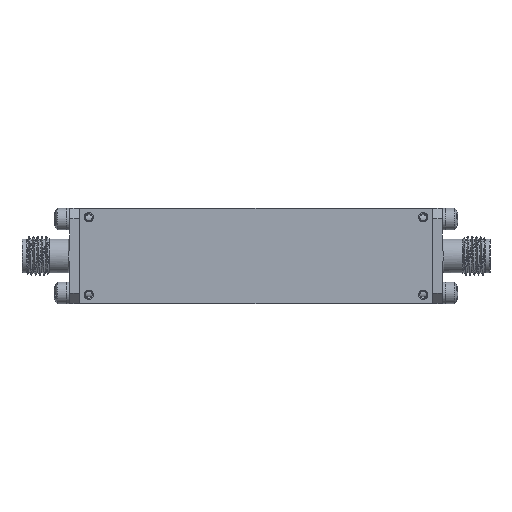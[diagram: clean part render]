
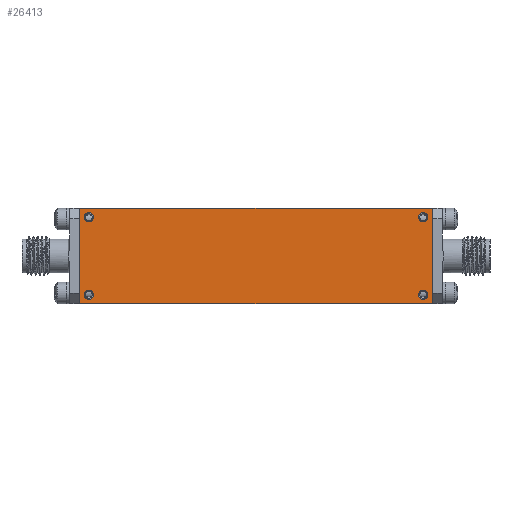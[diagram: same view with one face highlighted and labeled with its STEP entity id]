
A CAD part, front view. The second image highlights one B-rep face of the part: STEP entity #26413.
In plain terms, the highlighted planar face has unit normal (0, -1, 0).
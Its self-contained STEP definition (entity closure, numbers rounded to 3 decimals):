
#501 = DIRECTION ( 'NONE',  ( 0., 0., -1. ) ) ;
#599 = CARTESIAN_POINT ( 'NONE',  ( 949.946, 987.434, 1037.536 ) ) ;
#789 = EDGE_CURVE ( 'NONE', #24149, #24149, #38618, .T. ) ;
#790 = DIRECTION ( 'NONE',  ( 0., -1., 0. ) ) ;
#933 = EDGE_CURVE ( 'NONE', #24115, #23078, #27856, .T. ) ;
#956 = CARTESIAN_POINT ( 'NONE',  ( 1005.318, 987.434, 1036.774 ) ) ;
#1299 = CARTESIAN_POINT ( 'NONE',  ( 1006.842, 987.434, 1023.185 ) ) ;
#1666 = VECTOR ( 'NONE', #7726, 1000. ) ;
#2051 = EDGE_LOOP ( 'NONE', ( #6176, #29432, #21998, #5888 ) ) ;
#3520 = VERTEX_POINT ( 'NONE', #24592 ) ;
#3851 = VERTEX_POINT ( 'NONE', #1299 ) ;
#4286 = VECTOR ( 'NONE', #35685, 1000. ) ;
#5833 = CARTESIAN_POINT ( 'NONE',  ( 1005.318, 987.434, 1023.947 ) ) ;
#5888 = ORIENTED_EDGE ( 'NONE', *, *, #933, .F. ) ;
#6176 = ORIENTED_EDGE ( 'NONE', *, *, #14623, .F. ) ;
#7726 = DIRECTION ( 'NONE',  ( 0., 0., -1. ) ) ;
#7973 = FACE_BOUND ( 'NONE', #10949, .T. ) ;
#9040 = CARTESIAN_POINT ( 'NONE',  ( 948.422, 987.434, 1039.06 ) ) ;
#9574 = CARTESIAN_POINT ( 'NONE',  ( 1005.318, 987.434, 1024.709 ) ) ;
#9824 = VERTEX_POINT ( 'NONE', #25372 ) ;
#10153 = DIRECTION ( 'NONE',  ( 0., -1., 0. ) ) ;
#10919 = DIRECTION ( 'NONE',  ( 0., 0., 1. ) ) ;
#10949 = EDGE_LOOP ( 'NONE', ( #11199 ) ) ;
#11028 = DIRECTION ( 'NONE',  ( 0., -1., 0. ) ) ;
#11199 = ORIENTED_EDGE ( 'NONE', *, *, #31818, .F. ) ;
#12522 = CARTESIAN_POINT ( 'NONE',  ( 1005.318, 987.434, 1037.536 ) ) ;
#12582 = EDGE_CURVE ( 'NONE', #23078, #3851, #33886, .T. ) ;
#13014 = CARTESIAN_POINT ( 'NONE',  ( 1006.842, 987.434, 1039.06 ) ) ;
#13384 = VERTEX_POINT ( 'NONE', #34882 ) ;
#14623 = EDGE_CURVE ( 'NONE', #13384, #24115, #20932, .T. ) ;
#15973 = DIRECTION ( 'NONE',  ( 0., 0., -1. ) ) ;
#16736 = AXIS2_PLACEMENT_3D ( 'NONE', #31883, #11028, #28904 ) ;
#16869 = ORIENTED_EDGE ( 'NONE', *, *, #28085, .F. ) ;
#17143 = ORIENTED_EDGE ( 'NONE', *, *, #789, .F. ) ;
#17231 = DIRECTION ( 'NONE',  ( -1., 0., 0. ) ) ;
#18088 = EDGE_CURVE ( 'NONE', #3851, #13384, #20187, .T. ) ;
#18437 = EDGE_LOOP ( 'NONE', ( #16869 ) ) ;
#18611 = DIRECTION ( 'NONE',  ( 0., 0., -1. ) ) ;
#18998 = DIRECTION ( 'NONE',  ( 1., 0., 0. ) ) ;
#19140 = VECTOR ( 'NONE', #18998, 1000. ) ;
#19588 = CARTESIAN_POINT ( 'NONE',  ( 948.422, 987.434, 1039.06 ) ) ;
#19955 = DIRECTION ( 'NONE',  ( 0., 1., 0. ) ) ;
#20187 = LINE ( 'NONE', #34926, #33231 ) ;
#20932 = LINE ( 'NONE', #23731, #4286 ) ;
#21567 = DIRECTION ( 'NONE',  ( 0., -1., 0. ) ) ;
#21998 = ORIENTED_EDGE ( 'NONE', *, *, #12582, .F. ) ;
#22493 = CARTESIAN_POINT ( 'NONE',  ( 1006.842, 987.434, 1023.185 ) ) ;
#23078 = VERTEX_POINT ( 'NONE', #13014 ) ;
#23335 = FACE_BOUND ( 'NONE', #26036, .T. ) ;
#23731 = CARTESIAN_POINT ( 'NONE',  ( 948.422, 987.434, 1023.185 ) ) ;
#24115 = VERTEX_POINT ( 'NONE', #9040 ) ;
#24128 = ORIENTED_EDGE ( 'NONE', *, *, #36169, .F. ) ;
#24149 = VERTEX_POINT ( 'NONE', #5833 ) ;
#24202 = AXIS2_PLACEMENT_3D ( 'NONE', #9574, #21567, #18611 ) ;
#24592 = CARTESIAN_POINT ( 'NONE',  ( 949.946, 987.434, 1023.947 ) ) ;
#24786 = VERTEX_POINT ( 'NONE', #956 ) ;
#25239 = AXIS2_PLACEMENT_3D ( 'NONE', #599, #790, #15973 ) ;
#25372 = CARTESIAN_POINT ( 'NONE',  ( 949.946, 987.434, 1036.774 ) ) ;
#26036 = EDGE_LOOP ( 'NONE', ( #24128 ) ) ;
#26413 = ADVANCED_FACE ( 'NONE', ( #23335, #28992, #7973, #37659, #29197 ), #31966, .F. ) ;
#27709 = EDGE_LOOP ( 'NONE', ( #17143 ) ) ;
#27856 = LINE ( 'NONE', #19588, #19140 ) ;
#27903 = AXIS2_PLACEMENT_3D ( 'NONE', #28611, #19955, #10919 ) ;
#28085 = EDGE_CURVE ( 'NONE', #3520, #3520, #33079, .T. ) ;
#28155 = CIRCLE ( 'NONE', #33185, 0.762 ) ;
#28611 = CARTESIAN_POINT ( 'NONE',  ( 948.422, 987.434, 1039.06 ) ) ;
#28904 = DIRECTION ( 'NONE',  ( 0., 0., -1. ) ) ;
#28992 = FACE_BOUND ( 'NONE', #18437, .T. ) ;
#29197 = FACE_OUTER_BOUND ( 'NONE', #2051, .T. ) ;
#29432 = ORIENTED_EDGE ( 'NONE', *, *, #18088, .F. ) ;
#31818 = EDGE_CURVE ( 'NONE', #24786, #24786, #28155, .T. ) ;
#31883 = CARTESIAN_POINT ( 'NONE',  ( 949.946, 987.434, 1024.709 ) ) ;
#31966 = PLANE ( 'NONE',  #27903 ) ;
#33079 = CIRCLE ( 'NONE', #16736, 0.762 ) ;
#33185 = AXIS2_PLACEMENT_3D ( 'NONE', #12522, #10153, #501 ) ;
#33231 = VECTOR ( 'NONE', #17231, 1000. ) ;
#33886 = LINE ( 'NONE', #22493, #1666 ) ;
#34627 = CIRCLE ( 'NONE', #25239, 0.762 ) ;
#34882 = CARTESIAN_POINT ( 'NONE',  ( 948.422, 987.434, 1023.185 ) ) ;
#34926 = CARTESIAN_POINT ( 'NONE',  ( 948.422, 987.434, 1023.185 ) ) ;
#35685 = DIRECTION ( 'NONE',  ( 0., 0., 1. ) ) ;
#36169 = EDGE_CURVE ( 'NONE', #9824, #9824, #34627, .T. ) ;
#37659 = FACE_BOUND ( 'NONE', #27709, .T. ) ;
#38618 = CIRCLE ( 'NONE', #24202, 0.762 ) ;
